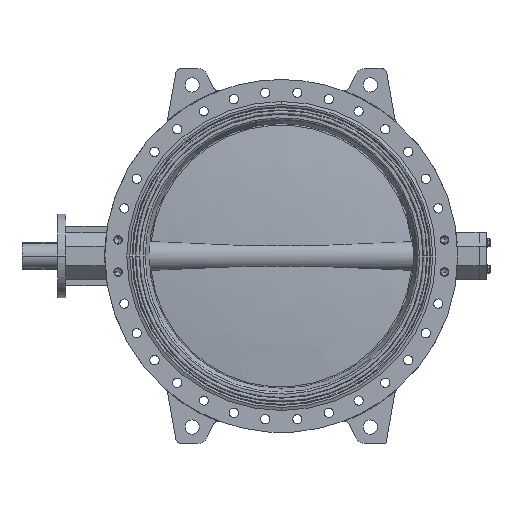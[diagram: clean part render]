
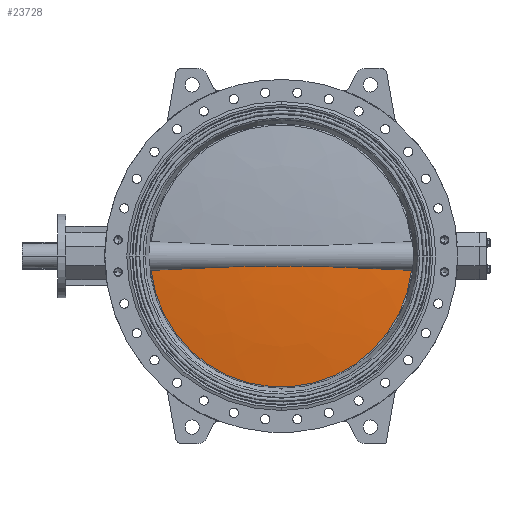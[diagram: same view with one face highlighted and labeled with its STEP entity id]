
A CAD part, left-side view. The second image highlights one B-rep face of the part: STEP entity #23728.
In plain terms, the highlighted free-form (B-spline) face has degree [3, 3] with [4, 4] control points.
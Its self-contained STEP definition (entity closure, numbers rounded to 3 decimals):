
#1120 = CARTESIAN_POINT ( 'NONE',  ( 59.659, 525.175, -18.849 ) ) ;
#1730 = DIRECTION ( 'NONE',  ( 0., 0., 1. ) ) ;
#2551 = CARTESIAN_POINT ( 'NONE',  ( 3.195, -34.533, -45.427 ) ) ;
#2633 = CARTESIAN_POINT ( 'NONE',  ( 61.267, -29.16, -45.427 ) ) ;
#2847 = CARTESIAN_POINT ( 'NONE',  ( 42.832, -22.899, -45.516 ) ) ;
#3781 = EDGE_CURVE ( 'NONE', #20264, #13295, #9248, .T. ) ;
#3801 = CIRCLE ( 'NONE', #8270, 551.212 ) ;
#4422 = CARTESIAN_POINT ( 'NONE',  ( 973.783, -463.472, -16.083 ) ) ;
#4503 = CARTESIAN_POINT ( 'NONE',  ( 34.988, -378.173, -37.007 ) ) ;
#4674 = CARTESIAN_POINT ( 'NONE',  ( 366.345, -174.362, -46.803 ) ) ;
#4813 = CARTESIAN_POINT ( 'NONE',  ( 42.782, -57.245, -45.563 ) ) ;
#4884 = CARTESIAN_POINT ( 'NONE',  ( 60.395, 547.893, -16.083 ) ) ;
#5058 = CARTESIAN_POINT ( 'NONE',  ( 50.088, 320.225, -37.514 ) ) ;
#5569 = CARTESIAN_POINT ( 'NONE',  ( 0., 0., -16.083 ) ) ;
#6478 = CARTESIAN_POINT ( 'NONE',  ( 19.104, -206.489, -46.803 ) ) ;
#6574 = CARTESIAN_POINT ( 'NONE',  ( 973.783, 463.472, -16.083 ) ) ;
#6643 = ORIENTED_EDGE ( 'NONE', *, *, #25207, .F. ) ;
#6779 = CARTESIAN_POINT ( 'NONE',  ( 43.187, -114.466, -45.18 ) ) ;
#6962 = CARTESIAN_POINT ( 'NONE',  ( 44.016, 160.245, -44.376 ) ) ;
#7216 = CARTESIAN_POINT ( 'NONE',  ( 53.534, -388.602, -32.335 ) ) ;
#7462 = CARTESIAN_POINT ( 'NONE',  ( 58.922, -502.441, -21.617 ) ) ;
#8270 = AXIS2_PLACEMENT_3D ( 'NONE', #5569, #1730, #9466 ) ;
#8490 = EDGE_LOOP ( 'NONE', ( #6643, #16999 ) ) ;
#8514 = FACE_OUTER_BOUND ( 'NONE', #8490, .T. ) ;
#8870 = CARTESIAN_POINT ( 'NONE',  ( 46.176, 228.861, -42.134 ) ) ;
#9114 = CARTESIAN_POINT ( 'NONE',  ( 60.395, -547.893, -16.083 ) ) ;
#9248 = B_SPLINE_CURVE_WITH_KNOTS ( 'NONE', 3,
 ( #4884, #1120, #14880, #20611, #22627, #24609, #5058, #10588, #8870, #16782, #6962, #14540, #20705, #18845, #22442, #22703, #10924, #12641, #10670, #14630, #2847, #16598, #4813, #18602, #10745, #6779, #16934, #12987, #20950, #11077, #13145, #19004, #19247, #25035, #7216, #24867, #7462, #9114 ),
 .UNSPECIFIED., .F., .F.,
 ( 4, 2, 2, 2, 2, 2, 2, 2, 2, 2, 2, 2, 2, 2, 2, 2, 2, 2, 4 ),
 ( 0., 0.069, 0.137, 0.275, 0.343, 0.412, 0.446, 0.481, 0.515, 0.549, 0.584, 0.618, 0.652, 0.687, 0.755, 0.824, 0.893, 0.962, 1.099 ),
 .UNSPECIFIED. ) ;
#9466 = DIRECTION ( 'NONE',  ( 0., -1., 0. ) ) ;
#10588 = CARTESIAN_POINT ( 'NONE',  ( 47.089, 251.716, -41.126 ) ) ;
#10670 = CARTESIAN_POINT ( 'NONE',  ( 42.866, 11.448, -45.484 ) ) ;
#10745 = CARTESIAN_POINT ( 'NONE',  ( 42.935, -91.582, -45.419 ) ) ;
#10924 = CARTESIAN_POINT ( 'NONE',  ( 42.787, 45.794, -45.557 ) ) ;
#11077 = CARTESIAN_POINT ( 'NONE',  ( 46.174, -228.8, -42.137 ) ) ;
#12520 = CARTESIAN_POINT ( 'NONE',  ( 670.943, -319.335, -37.007 ) ) ;
#12641 = CARTESIAN_POINT ( 'NONE',  ( 42.832, 22.897, -45.516 ) ) ;
#12987 = CARTESIAN_POINT ( 'NONE',  ( 44.015, -160.219, -44.377 ) ) ;
#13145 = CARTESIAN_POINT ( 'NONE',  ( 47.086, -251.649, -41.129 ) ) ;
#13295 = VERTEX_POINT ( 'NONE', #20924 ) ;
#14329 = CARTESIAN_POINT ( 'NONE',  ( 61.267, 29.16, -45.427 ) ) ;
#14408 = CARTESIAN_POINT ( 'NONE',  ( 50.781, 548.868, -16.083 ) ) ;
#14489 = CARTESIAN_POINT ( 'NONE',  ( 366.345, 174.362, -46.803 ) ) ;
#14540 = CARTESIAN_POINT ( 'NONE',  ( 43.36, 125.921, -45.014 ) ) ;
#14630 = CARTESIAN_POINT ( 'NONE',  ( 42.866, -11.45, -45.484 ) ) ;
#14880 = CARTESIAN_POINT ( 'NONE',  ( 58.771, 502.443, -21.421 ) ) ;
#16598 = CARTESIAN_POINT ( 'NONE',  ( 42.787, -45.797, -45.557 ) ) ;
#16782 = CARTESIAN_POINT ( 'NONE',  ( 44.639, 183.122, -43.759 ) ) ;
#16934 = CARTESIAN_POINT ( 'NONE',  ( 43.359, -125.906, -45.015 ) ) ;
#16999 = ORIENTED_EDGE ( 'NONE', *, *, #3781, .F. ) ;
#18292 = CARTESIAN_POINT ( 'NONE',  ( 670.943, 319.335, -37.007 ) ) ;
#18378 = CARTESIAN_POINT ( 'NONE',  ( 50.781, -548.868, -16.083 ) ) ;
#18602 = CARTESIAN_POINT ( 'NONE',  ( 42.856, -80.138, -45.493 ) ) ;
#18845 = CARTESIAN_POINT ( 'NONE',  ( 42.935, 91.587, -45.419 ) ) ;
#19004 = CARTESIAN_POINT ( 'NONE',  ( 49.085, -297.333, -38.721 ) ) ;
#19247 = CARTESIAN_POINT ( 'NONE',  ( 50.172, -320.172, -37.32 ) ) ;
#20264 = VERTEX_POINT ( 'NONE', #22770 ) ;
#20419 = CARTESIAN_POINT ( 'NONE',  ( 3.195, 34.533, -45.427 ) ) ;
#20611 = CARTESIAN_POINT ( 'NONE',  ( 56.813, 456.946, -26.176 ) ) ;
#20705 = CARTESIAN_POINT ( 'NONE',  ( 43.187, 114.477, -45.179 ) ) ;
#20924 = CARTESIAN_POINT ( 'NONE',  ( 60.395, -547.893, -16.083 ) ) ;
#20950 = CARTESIAN_POINT ( 'NONE',  ( 44.638, -183.085, -43.76 ) ) ;
#22423 =( BOUNDED_SURFACE ( )  B_SPLINE_SURFACE ( 3, 3, ( 
 ( #18378, #4422, #6574, #14408 ),
 ( #4503, #12520, #18292, #24299 ),
 ( #6478, #4674, #14489, #24393 ),
 ( #2551, #2633, #14329, #20419 ) ),
 .UNSPECIFIED., .F., .F., .F. ) 
 B_SPLINE_SURFACE_WITH_KNOTS ( ( 4, 4 ),
 ( 4, 4 ),
 ( 0., 1. ),
 ( 0., 1. ),
 .UNSPECIFIED. ) 
 GEOMETRIC_REPRESENTATION_ITEM ( )  RATIONAL_B_SPLINE_SURFACE ( (
 ( 1., 0.395, 0.395, 1.),
 ( 0.999, 0.394, 0.394, 0.999),
 ( 0.999, 0.394, 0.394, 0.999),
 ( 1., 0.395, 0.395, 1.) ) ) 
 REPRESENTATION_ITEM ( '' )  SURFACE ( )  );
#22442 = CARTESIAN_POINT ( 'NONE',  ( 42.856, 80.14, -45.493 ) ) ;
#22627 = CARTESIAN_POINT ( 'NONE',  ( 55.742, 434.178, -28.359 ) ) ;
#22703 = CARTESIAN_POINT ( 'NONE',  ( 42.782, 57.243, -45.563 ) ) ;
#22770 = CARTESIAN_POINT ( 'NONE',  ( 60.395, 547.893, -16.083 ) ) ;
#23728 = ADVANCED_FACE ( 'NONE', ( #8514 ), #22423, .T. ) ;
#24299 = CARTESIAN_POINT ( 'NONE',  ( 34.988, 378.173, -37.007 ) ) ;
#24393 = CARTESIAN_POINT ( 'NONE',  ( 19.104, 206.489, -46.803 ) ) ;
#24609 = CARTESIAN_POINT ( 'NONE',  ( 52.43, 365.833, -34.322 ) ) ;
#24867 = CARTESIAN_POINT ( 'NONE',  ( 56.845, -456.945, -26.373 ) ) ;
#25035 = CARTESIAN_POINT ( 'NONE',  ( 52.396, -365.805, -34.127 ) ) ;
#25207 = EDGE_CURVE ( 'NONE', #13295, #20264, #3801, .T. ) ;
